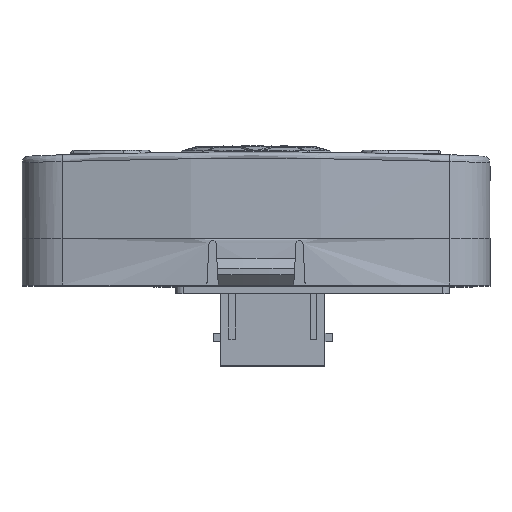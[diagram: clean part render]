
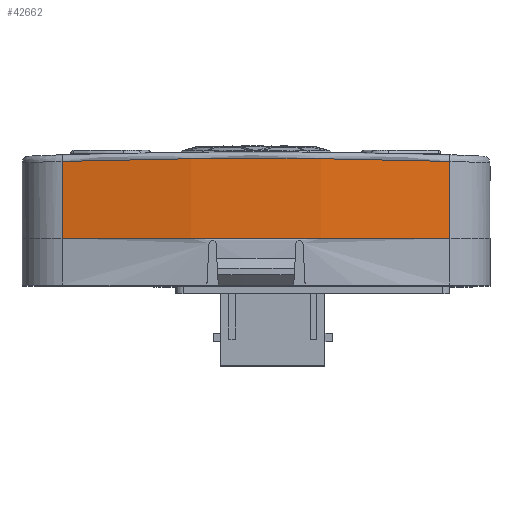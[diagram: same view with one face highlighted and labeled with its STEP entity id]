
A CAD part, top view. The second image highlights one B-rep face of the part: STEP entity #42662.
In plain terms, the highlighted cylindrical face has radius 141.667 mm (diameter 283.333 mm), a partial arc.
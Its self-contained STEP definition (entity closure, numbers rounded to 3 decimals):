
#35097=DIRECTION('',(-1.,0.,0.));
#35098=VECTOR('',#35097,11.591);
#35099=CARTESIAN_POINT('',(-990.5,29.,-166.441));
#35100=LINE('',#35099,#35098);
#35111=CARTESIAN_POINT('',(-1002.091,-29.,
-166.441));
#35112=CARTESIAN_POINT('',(-1002.189,-25.824,
-165.777));
#35113=CARTESIAN_POINT('',(-1002.353,-19.427,
-164.667));
#35114=CARTESIAN_POINT('',(-1002.502,-9.738,
-163.664));
#35115=CARTESIAN_POINT('',(-1002.552,-0.002,
-163.329));
#35116=CARTESIAN_POINT('',(-1002.502,9.733,
-163.664));
#35117=CARTESIAN_POINT('',(-1002.353,19.422,
-164.666));
#35118=CARTESIAN_POINT('',(-1002.189,25.822,
-165.776));
#35119=CARTESIAN_POINT('',(-1002.091,29.,
-166.441));
#35121=CARTESIAN_POINT('',(-990.5,0.,-305.108));
#35122=DIRECTION('',(1.,0.,0.));
#35123=DIRECTION('',(0.,0.205,0.979));
#35124=AXIS2_PLACEMENT_3D('',#35121,#35122,#35123);
#35126=DIRECTION('',(-1.,0.,0.));
#35127=VECTOR('',#35126,11.591);
#35128=CARTESIAN_POINT('',(-990.5,-29.,-166.441));
#35129=LINE('',#35128,#35127);
#35139=CARTESIAN_POINT('',(-1002.091,-29.,
-166.441));
#38343=CARTESIAN_POINT('',(-990.5,29.,-166.441));
#38344=CARTESIAN_POINT('',(-990.5,-29.,-166.441));
#38345=VERTEX_POINT('',#38343);
#38346=VERTEX_POINT('',#38344);
#38445=VERTEX_POINT('',#35139);
#38447=VERTEX_POINT('',#35119);
#42650=CARTESIAN_POINT('',(0.,0.,-305.108));
#42651=DIRECTION('',(1.,0.,0.));
#42652=DIRECTION('',(0.,0.,-1.));
#42653=AXIS2_PLACEMENT_3D('',#42650,#42651,#42652);
#42654=CYLINDRICAL_SURFACE('',#42653,141.667);
#42655=ORIENTED_EDGE('',*,*,#42643,.T.);
#42656=ORIENTED_EDGE('',*,*,#42545,.F.);
#42657=ORIENTED_EDGE('',*,*,#41821,.T.);
#42659=ORIENTED_EDGE('',*,*,#42658,.T.);
#42660=EDGE_LOOP('',(#42655,#42656,#42657,#42659));
#42661=FACE_OUTER_BOUND('',#42660,.F.);
#42662=ADVANCED_FACE('',(#42661),#42654,.T.);
#35120=B_SPLINE_CURVE_WITH_KNOTS('',3,(#35111,#35112,#35113,#35114,#35115,
#35116,#35117,#35118,#35119),.UNSPECIFIED.,.F.,.F.,(4,1,1,1,1,1,4),(0.,
0.167,0.333,0.5,0.667,0.833,
1.),.UNSPECIFIED.);
#35125=CIRCLE('',#35124,141.667);
#41821=EDGE_CURVE('',#38345,#38346,#35125,.T.);
#42545=EDGE_CURVE('',#38345,#38447,#35100,.T.);
#42643=EDGE_CURVE('',#38445,#38447,#35120,.T.);
#42658=EDGE_CURVE('',#38346,#38445,#35129,.T.);
